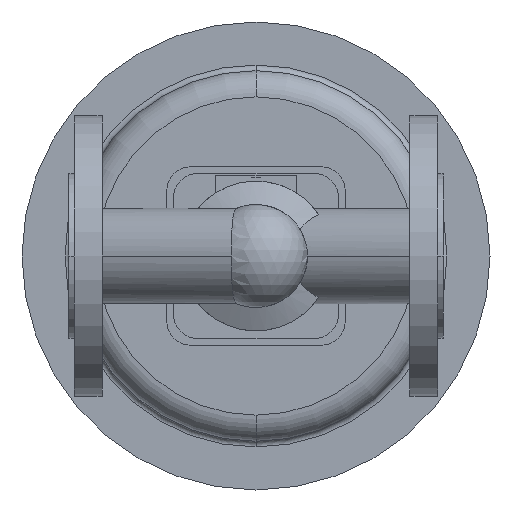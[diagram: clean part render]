
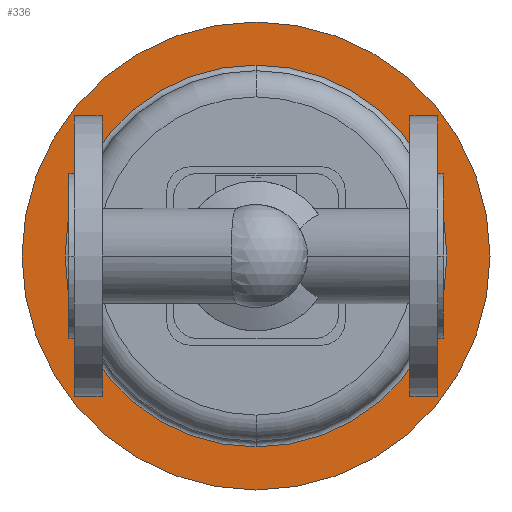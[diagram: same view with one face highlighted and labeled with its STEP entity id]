
A CAD part, front view. The second image highlights one B-rep face of the part: STEP entity #336.
In plain terms, the highlighted planar face has unit normal (0, -1, 0).
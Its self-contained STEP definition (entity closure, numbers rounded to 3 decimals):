
#336 = ADVANCED_FACE( '', ( #816, #817 ), #818, .T. );
#816 = FACE_OUTER_BOUND( '', #1305, .T. );
#817 = FACE_BOUND( '', #1306, .T. );
#818 = PLANE( '', #1307 );
#1305 = EDGE_LOOP( '', ( #3035, #3036 ) );
#1306 = EDGE_LOOP( '', ( #3037, #3038, #3039 ) );
#1307 = AXIS2_PLACEMENT_3D( '', #3040, #3041, #3042 );
#3035 = ORIENTED_EDGE( '', *, *, #3469, .F. );
#3036 = ORIENTED_EDGE( '', *, *, #3640, .F. );
#3037 = ORIENTED_EDGE( '', *, *, #3638, .T. );
#3038 = ORIENTED_EDGE( '', *, *, #3476, .T. );
#3039 = ORIENTED_EDGE( '', *, *, #3639, .T. );
#3040 = CARTESIAN_POINT( '', ( 213.5, 559., 0. ) );
#3041 = DIRECTION( '', ( 0., -1., 0. ) );
#3042 = DIRECTION( '', ( -1., 0., 0. ) );
#3469 = EDGE_CURVE( '', #4277, #4280, #4281, .T. );
#3476 = EDGE_CURVE( '', #4286, #4292, #4294, .T. );
#3638 = EDGE_CURVE( '', #4563, #4286, #4564, .T. );
#3639 = EDGE_CURVE( '', #4292, #4563, #4565, .T. );
#3640 = EDGE_CURVE( '', #4280, #4277, #4566, .T. );
#4277 = VERTEX_POINT( '', #5879 );
#4280 = VERTEX_POINT( '', #5883 );
#4281 = CIRCLE( '', #5884, 125. );
#4286 = VERTEX_POINT( '', #5890 );
#4292 = VERTEX_POINT( '', #5896 );
#4294 = CIRCLE( '', #5898, 102. );
#4563 = VERTEX_POINT( '', #6236 );
#4564 = CIRCLE( '', #6237, 102. );
#4565 = CIRCLE( '', #6238, 102. );
#4566 = CIRCLE( '', #6239, 125. );
#5879 = CARTESIAN_POINT( '', ( 225., 559., 0. ) );
#5883 = CARTESIAN_POINT( '', ( -25., 559., 0. ) );
#5884 = AXIS2_PLACEMENT_3D( '', #6952, #6953, #6954 );
#5890 = CARTESIAN_POINT( '', ( 100., 559., -102. ) );
#5896 = CARTESIAN_POINT( '', ( 100., 559., 102. ) );
#5898 = AXIS2_PLACEMENT_3D( '', #6971, #6972, #6973 );
#6236 = CARTESIAN_POINT( '', ( 202., 559., 0. ) );
#6237 = AXIS2_PLACEMENT_3D( '', #7319, #7320, #7321 );
#6238 = AXIS2_PLACEMENT_3D( '', #7322, #7323, #7324 );
#6239 = AXIS2_PLACEMENT_3D( '', #7325, #7326, #7327 );
#6952 = CARTESIAN_POINT( '', ( 100., 559., 0. ) );
#6953 = DIRECTION( '', ( 0., 1., 0. ) );
#6954 = DIRECTION( '', ( 1., 0., 0. ) );
#6971 = CARTESIAN_POINT( '', ( 100., 559., 0. ) );
#6972 = DIRECTION( '', ( 0., 1., 0. ) );
#6973 = DIRECTION( '', ( 1., 0., 0. ) );
#7319 = CARTESIAN_POINT( '', ( 100., 559., 0. ) );
#7320 = DIRECTION( '', ( 0., 1., 0. ) );
#7321 = DIRECTION( '', ( 1., 0., 0. ) );
#7322 = CARTESIAN_POINT( '', ( 100., 559., 0. ) );
#7323 = DIRECTION( '', ( 0., 1., 0. ) );
#7324 = DIRECTION( '', ( 1., 0., 0. ) );
#7325 = CARTESIAN_POINT( '', ( 100., 559., 0. ) );
#7326 = DIRECTION( '', ( 0., 1., 0. ) );
#7327 = DIRECTION( '', ( 1., 0., 0. ) );
